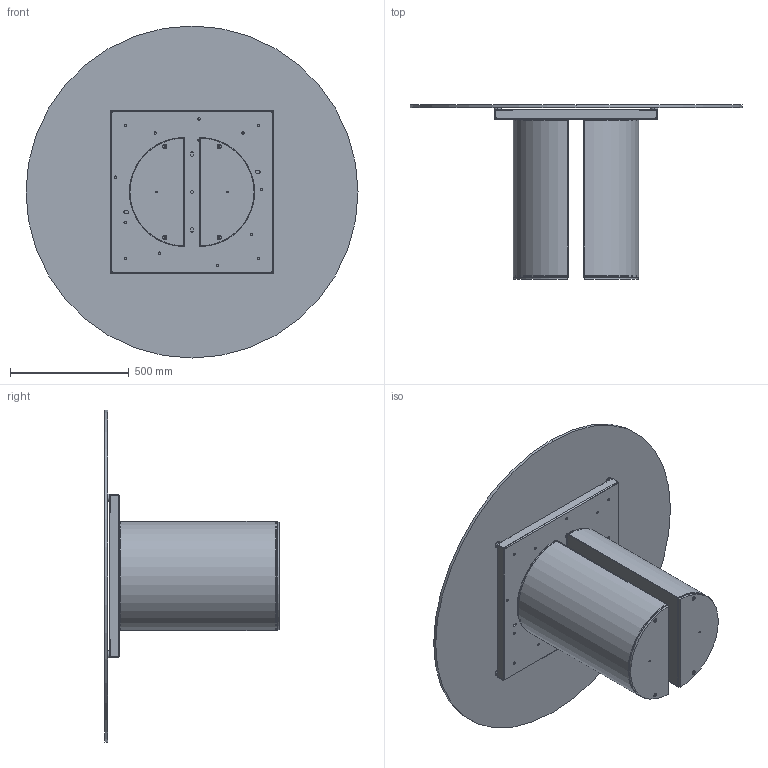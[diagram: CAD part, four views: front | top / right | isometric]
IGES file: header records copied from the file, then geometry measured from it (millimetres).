
Start section: SolidWorks IGES file using analytic representation for surfaces
Global section: file name: Y:\eforma\TECNICO\SOLIDWORKS\E-FORMA\1-TAVOLI\DORA\02 parts\DR06G.IGS; native system: SolidWorks 2022; preprocessor: SolidWorks 2022; author: eforma.tech; date: 240806.145940; units: millimetre
Bounding box: 1400 x 736 x 1400 mm (x, y, z)
Volume: 26338006.1 mm3; surface area: 8184156.6 mm2
Topology: 28 solids, 28 shells, 706 faces, 1778 edges, 1124 vertices
Faces by surface type: plane 358, revolution 348
